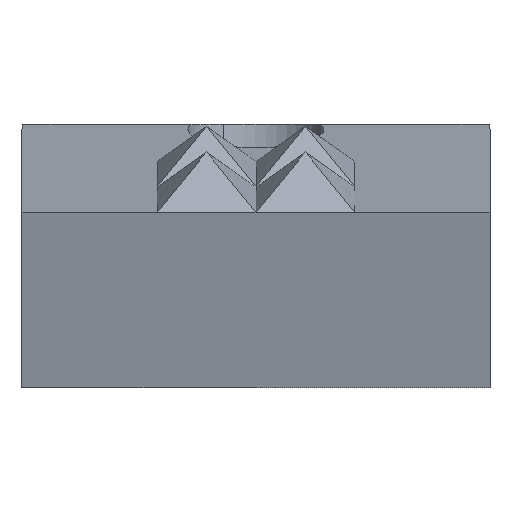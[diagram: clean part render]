
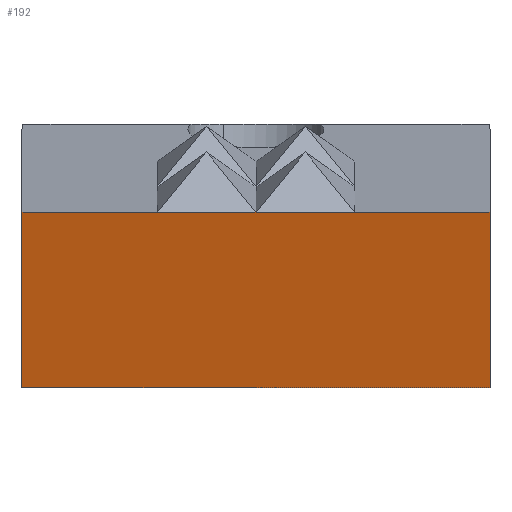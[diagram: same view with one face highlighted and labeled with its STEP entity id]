
A CAD part, left-side view. The second image highlights one B-rep face of the part: STEP entity #192.
In plain terms, the highlighted planar face has unit normal (-0.966, 0, -0.259).
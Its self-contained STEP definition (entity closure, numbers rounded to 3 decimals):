
#136=AXIS2_PLACEMENT_3D('Plane Axis2P3D',#133,#134,#135) ;
#41=CARTESIAN_POINT('Vertex',(-9.4,0.,5.321)) ;
#119=CARTESIAN_POINT('Vertex',(-9.4,3.,5.321)) ;
#133=CARTESIAN_POINT('Axis2P3D Location',(-9.4,7.1,5.321)) ;
#138=CARTESIAN_POINT('Line Origine',(-7.974,0.,0.)) ;
#142=CARTESIAN_POINT('Vertex',(-7.974,7.1,0.)) ;
#144=CARTESIAN_POINT('Vertex',(-7.974,-7.1,0.)) ;
#147=CARTESIAN_POINT('Line Origine',(-8.687,-7.1,2.66)) ;
#151=CARTESIAN_POINT('Vertex',(-9.4,-7.1,5.321)) ;
#154=CARTESIAN_POINT('Line Origine',(-9.4,-5.05,5.321)) ;
#158=CARTESIAN_POINT('Vertex',(-9.4,-3.,5.321)) ;
#161=CARTESIAN_POINT('Line Origine',(-9.4,-1.5,5.321)) ;
#166=CARTESIAN_POINT('Line Origine',(-9.4,1.5,5.321)) ;
#171=CARTESIAN_POINT('Line Origine',(-9.4,5.05,5.321)) ;
#175=CARTESIAN_POINT('Vertex',(-9.4,7.1,5.321)) ;
#178=CARTESIAN_POINT('Line Origine',(-8.687,7.1,2.66)) ;
#134=DIRECTION('Axis2P3D Direction',(-0.966,-0.,-0.259)) ;
#135=DIRECTION('Axis2P3D XDirection',(0.259,0.,-0.966)) ;
#139=DIRECTION('Vector Direction',(0.,-1.,0.)) ;
#148=DIRECTION('Vector Direction',(0.259,0.,-0.966)) ;
#155=DIRECTION('Vector Direction',(0.,-1.,0.)) ;
#162=DIRECTION('Vector Direction',(0.,1.,0.)) ;
#167=DIRECTION('Vector Direction',(0.,1.,0.)) ;
#172=DIRECTION('Vector Direction',(0.,-1.,0.)) ;
#179=DIRECTION('Vector Direction',(0.259,0.,-0.966)) ;
#140=VECTOR('Line Direction',#139,1.) ;
#149=VECTOR('Line Direction',#148,1.) ;
#156=VECTOR('Line Direction',#155,1.) ;
#163=VECTOR('Line Direction',#162,1.) ;
#168=VECTOR('Line Direction',#167,1.) ;
#173=VECTOR('Line Direction',#172,1.) ;
#180=VECTOR('Line Direction',#179,1.) ;
#184=ORIENTED_EDGE('',*,*,#146,.T.) ;
#185=ORIENTED_EDGE('',*,*,#153,.F.) ;
#186=ORIENTED_EDGE('',*,*,#160,.F.) ;
#187=ORIENTED_EDGE('',*,*,#165,.F.) ;
#188=ORIENTED_EDGE('',*,*,#170,.F.) ;
#189=ORIENTED_EDGE('',*,*,#177,.F.) ;
#190=ORIENTED_EDGE('',*,*,#182,.T.) ;
#192=ADVANCED_FACE('PartBody',(#191),#137,.T.) ;
#146=EDGE_CURVE('',#143,#145,#141,.T.) ;
#153=EDGE_CURVE('',#152,#145,#150,.T.) ;
#160=EDGE_CURVE('',#159,#152,#157,.T.) ;
#165=EDGE_CURVE('',#42,#159,#164,.F.) ;
#170=EDGE_CURVE('',#120,#42,#169,.F.) ;
#177=EDGE_CURVE('',#176,#120,#174,.T.) ;
#182=EDGE_CURVE('',#176,#143,#181,.T.) ;
#183=EDGE_LOOP('',(#184,#185,#186,#187,#188,#189,#190)) ;
#191=FACE_OUTER_BOUND('',#183,.T.) ;
#141=LINE('Line',#138,#140) ;
#150=LINE('Line',#147,#149) ;
#157=LINE('Line',#154,#156) ;
#164=LINE('Line',#161,#163) ;
#169=LINE('Line',#166,#168) ;
#174=LINE('Line',#171,#173) ;
#181=LINE('Line',#178,#180) ;
#137=PLANE('Plane',#136) ;
#42=VERTEX_POINT('',#41) ;
#120=VERTEX_POINT('',#119) ;
#143=VERTEX_POINT('',#142) ;
#145=VERTEX_POINT('',#144) ;
#152=VERTEX_POINT('',#151) ;
#159=VERTEX_POINT('',#158) ;
#176=VERTEX_POINT('',#175) ;
